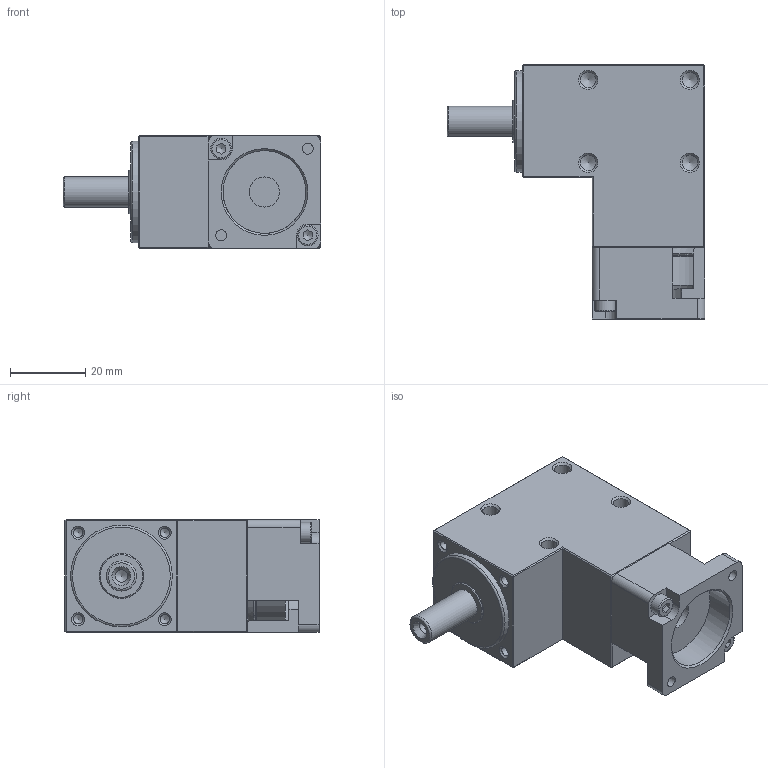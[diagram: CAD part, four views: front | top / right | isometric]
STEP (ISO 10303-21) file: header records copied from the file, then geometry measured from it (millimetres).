
FILE_DESCRIPTION((''),'2;1');
FILE_NAME('D:\유성\SBT 베벨기어박스\최종도면모음\3D\SBT030\SBT030MLS001S.stp','2014-05-16T11:52:19',('nagyu'),(''),'Autodesk Inventor 2013','Autodesk Inventor 2013','');
FILE_SCHEMA(('AUTOMOTIVE_DESIGN { 1 0 10303 214 1 1 1 1 }'));
Length unit declared in the file: millimetre
Products named in the file (1): SBT030MLS001S_Shrinkwrap_1
Bounding box: 68.5 x 67.5 x 30 mm (x, y, z)
Volume: 71047.2 mm3; surface area: 17844.2 mm2
Topology: 1 solids, 3 shells, 161 faces, 393 edges, 248 vertices
Faces by surface type: plane 85, cylinder 37, cone 32, torus 7
Full cylindrical faces by diameter (mm): 2.459 x4, 2.9 x2, 3 x2, 3.242 x1, 3.4 x2, 4.134 x8, 5.5 x2, 8 x2, 11.9 x2, 22 x1, 25 x1, 27 x2
Entity records: 4177 total; most frequent: DIRECTION 719, CARTESIAN_POINT 713, ORIENTED_EDGE 590, EDGE_CURVE 295, AXIS2_PLACEMENT_3D 270, EDGE_LOOP 245, VERTEX_POINT 208, VECTOR 179
